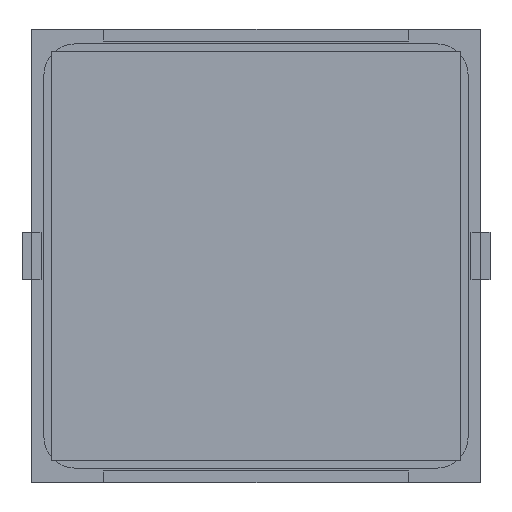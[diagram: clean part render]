
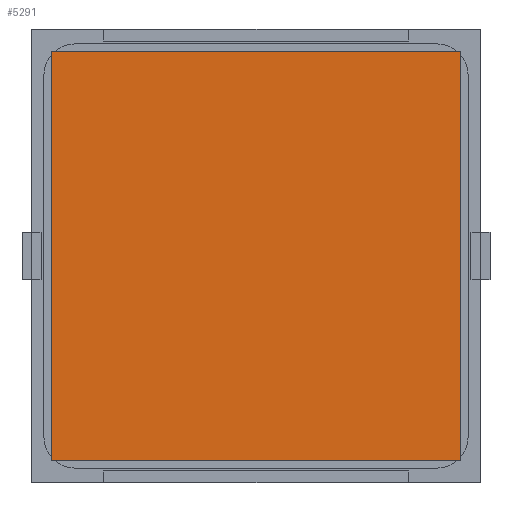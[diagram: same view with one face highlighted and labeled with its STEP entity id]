
A CAD part, front view. The second image highlights one B-rep face of the part: STEP entity #5291.
In plain terms, the highlighted planar face has unit normal (0, -1, 0).
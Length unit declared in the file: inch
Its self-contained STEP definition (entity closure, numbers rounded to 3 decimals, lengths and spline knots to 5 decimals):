
#13 = EDGE_CURVE ( 'NONE', #6624, #1451, #3449, .T. ) ;
#95 = CARTESIAN_POINT ( 'NONE',  ( 0.84646, -0.005, 0.84646 ) ) ;
#347 = EDGE_CURVE ( 'NONE', #5169, #6624, #12752, .T. ) ;
#368 = PLANE ( 'NONE',  #11765 ) ;
#785 = VECTOR ( 'NONE', #6551, 39.37008 ) ;
#1038 = CARTESIAN_POINT ( 'NONE',  ( -0.84646, -0.005, 0.84646 ) ) ;
#1275 = CARTESIAN_POINT ( 'NONE',  ( -0.84646, -0.005, -0.84646 ) ) ;
#1326 = EDGE_CURVE ( 'NONE', #1451, #4638, #12352, .T. ) ;
#1451 = VERTEX_POINT ( 'NONE', #12989 ) ;
#2323 = LINE ( 'NONE', #9532, #7348 ) ;
#3449 = LINE ( 'NONE', #1275, #10589 ) ;
#4344 = FACE_OUTER_BOUND ( 'NONE', #7068, .T. ) ;
#4638 = VERTEX_POINT ( 'NONE', #95 ) ;
#5169 = VERTEX_POINT ( 'NONE', #7024 ) ;
#5291 = ADVANCED_FACE ( 'NONE', ( #4344 ), #368, .F. ) ;
#5300 = DIRECTION ( 'NONE',  ( 0., 0., -1. ) ) ;
#6425 = CARTESIAN_POINT ( 'NONE',  ( -0.84646, -0.005, -0.84646 ) ) ;
#6551 = DIRECTION ( 'NONE',  ( -1., 0., 0. ) ) ;
#6559 = EDGE_CURVE ( 'NONE', #4638, #5169, #2323, .T. ) ;
#6624 = VERTEX_POINT ( 'NONE', #6425 ) ;
#6999 = DIRECTION ( 'NONE',  ( 0., 0., 1. ) ) ;
#7024 = CARTESIAN_POINT ( 'NONE',  ( 0.84646, -0.005, -0.84646 ) ) ;
#7068 = EDGE_LOOP ( 'NONE', ( #10905, #13089, #12682, #7235 ) ) ;
#7235 = ORIENTED_EDGE ( 'NONE', *, *, #1326, .F. ) ;
#7348 = VECTOR ( 'NONE', #5300, 39.37008 ) ;
#7819 = CARTESIAN_POINT ( 'NONE',  ( -0.84646, -0.005, -0.84646 ) ) ;
#8134 = DIRECTION ( 'NONE',  ( 0., 1., 0. ) ) ;
#9532 = CARTESIAN_POINT ( 'NONE',  ( 0.84646, -0.005, -0.84646 ) ) ;
#10575 = DIRECTION ( 'NONE',  ( 0., 0., 1. ) ) ;
#10589 = VECTOR ( 'NONE', #10575, 39.37008 ) ;
#10905 = ORIENTED_EDGE ( 'NONE', *, *, #13, .F. ) ;
#11522 = VECTOR ( 'NONE', #12288, 39.37008 ) ;
#11765 = AXIS2_PLACEMENT_3D ( 'NONE', #1038, #8134, #6999 ) ;
#12214 = CARTESIAN_POINT ( 'NONE',  ( -0.84646, -0.005, 0.84646 ) ) ;
#12288 = DIRECTION ( 'NONE',  ( 1., 0., 0. ) ) ;
#12352 = LINE ( 'NONE', #12214, #11522 ) ;
#12682 = ORIENTED_EDGE ( 'NONE', *, *, #6559, .F. ) ;
#12752 = LINE ( 'NONE', #7819, #785 ) ;
#12989 = CARTESIAN_POINT ( 'NONE',  ( -0.84646, -0.005, 0.84646 ) ) ;
#13089 = ORIENTED_EDGE ( 'NONE', *, *, #347, .F. ) ;
